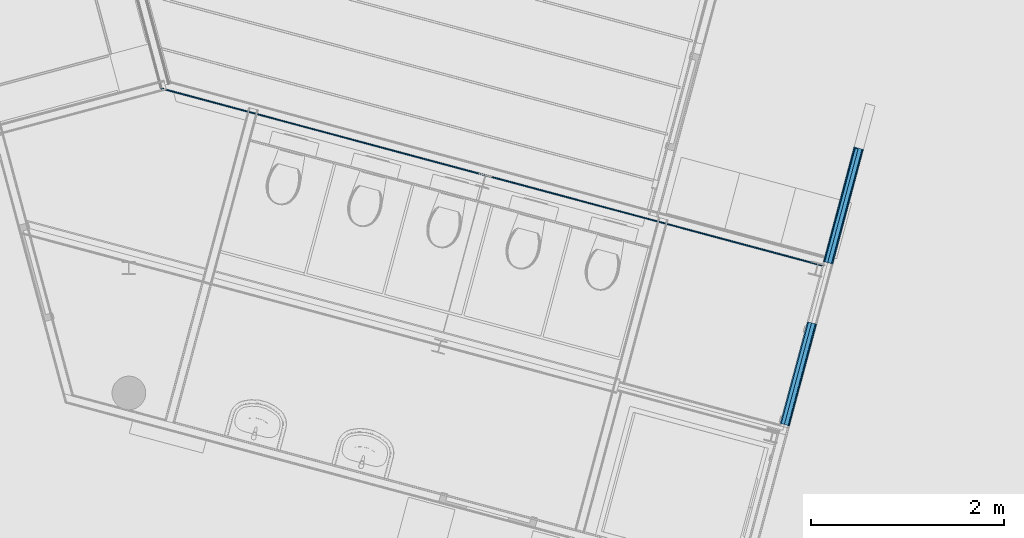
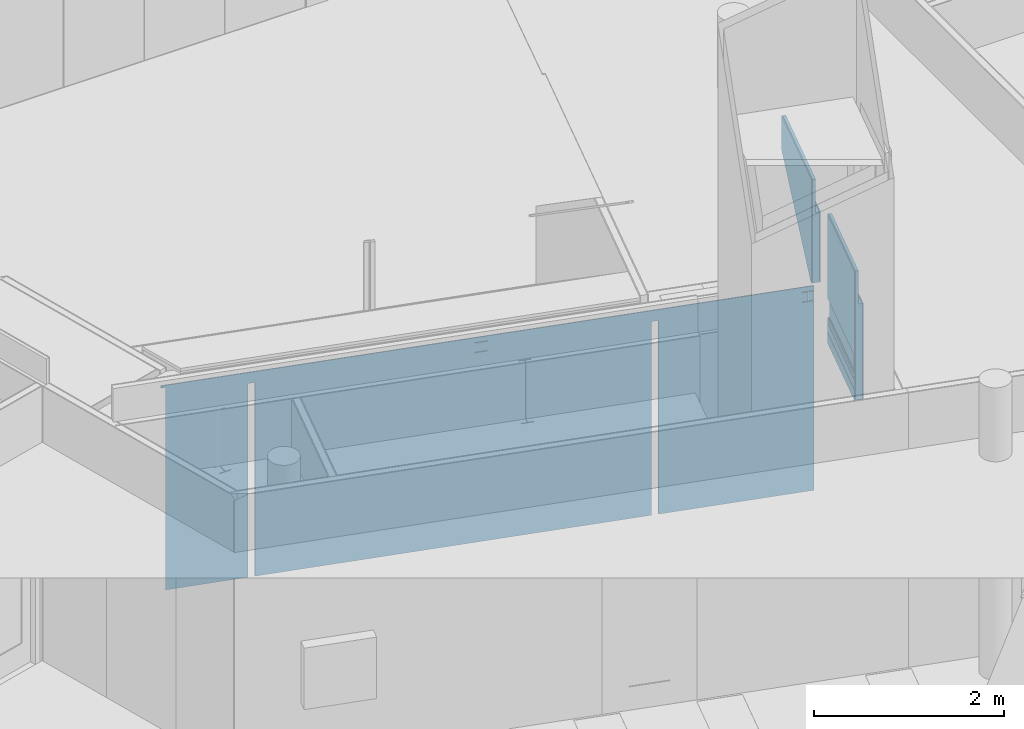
# One storey, part 56 of 167: 7 building element parts, 1 opening, 3 elements without a shape of their own.
"""IFC2X3 building model written with IfcOpenShell, lengths in millimetres."""

import ifcopenshell
import ifcopenshell.guid

model = None  # the IFC model being written
_history = None  # IfcOwnerHistory: only IFC2X3 demands one
_inside = {}  # id of a spatial element -> (the spatial element, [elements in it])
_under = {}  # id of a project, library or spatial element -> (it, [spatial elements below it])
_declared = {}  # id of a project -> (the project, [libraries it declares])
_typed = {}  # id of a type object -> (the type object, [elements of that type])
_made_of = {}  # id of a material, layer set ... -> (it, [elements and type objects made of it])


def new_model(schema):
    """Start an empty IFC model of exactly this schema.

    Asked for "IFC4X3", IfcOpenShell would pick the latest addendum, in which some entities
    have other attributes; the version numbers below select the first issue.
    IFC2X3 requires an IfcOwnerHistory on every rooted entity: one is made here for all.
    """
    global model, _history
    if schema == "IFC4X3":
        model = ifcopenshell.file(schema_version=(4, 3, 0, 0))
    else:
        model = ifcopenshell.file(schema=schema)
    _inside.clear()
    _under.clear()
    _declared.clear()
    _typed.clear()
    _made_of.clear()
    _history = None
    if model.schema == "IFC2X3":
        org = make("IfcOrganization", Name="unknown")
        user = make(
            "IfcPersonAndOrganization",
            ThePerson=make("IfcPerson", FamilyName="unknown"),
            TheOrganization=org,
        )
        app = make(
            "IfcApplication",
            ApplicationDeveloper=org,
            Version="unknown",
            ApplicationFullName="unknown",
            ApplicationIdentifier="unknown",
        )
        _history = make(
            "IfcOwnerHistory",
            OwningUser=user,
            OwningApplication=app,
            ChangeAction="ADDED",
            CreationDate=0,
        )
    return model


def make(cls, **values):
    """One entity of the class cls with the attributes given. An attribute that is None is left unset."""
    return model.create_entity(
        cls, **{name: value for name, value in values.items() if value is not None}
    )


def entity(cls, *values):
    """Any entity or typed value of the class cls, its attributes in the order of the schema. None: left unset."""
    e = model.create_entity(cls)
    for i, value in enumerate(values):
        if value is not None:
            e[i] = value
    return e


def rooted(cls, **values):
    """An entity with a GlobalId (a new one), such as an element, a storey or a relation."""
    return make(cls, GlobalId=ifcopenshell.guid.new(), OwnerHistory=_history, **values)


def si_unit(unit_type, name, prefix=None):
    """IfcSIUnit, for example si_unit("LENGTHUNIT", "METRE", prefix="MILLI")."""
    return make("IfcSIUnit", UnitType=unit_type, Prefix=prefix, Name=name)


def converted_unit(unit_type, name, factor, base, dimensions=None, offset=None):
    """IfcConversionBasedUnit, such as the inch: factor (a typed value) times the base unit."""
    return make(
        "IfcConversionBasedUnit"
        if offset is None
        else "IfcConversionBasedUnitWithOffset",
        ConversionOffset=offset,
        Dimensions=None
        if dimensions is None
        else entity("IfcDimensionalExponents", *dimensions),
        UnitType=unit_type,
        Name=name,
        ConversionFactor=make(
            "IfcMeasureWithUnit", ValueComponent=factor, UnitComponent=base
        ),
    )


def derived_unit(unit_type, elements):
    """IfcDerivedUnit: a product of units, each with its exponent."""
    return make(
        "IfcDerivedUnit",
        Elements=[
            make("IfcDerivedUnitElement", Unit=unit, Exponent=power)
            for unit, power in elements
        ],
        UnitType=unit_type,
    )


def money_unit(currency):
    """IfcMonetaryUnit."""
    return make("IfcMonetaryUnit", Currency=currency)


def assignment(units):
    """IfcUnitAssignment: the units of a project."""
    return None if units is None else make("IfcUnitAssignment", Units=units)


def point(xyz):
    """IfcCartesianPoint."""
    return None if xyz is None else make("IfcCartesianPoint", Coordinates=xyz)


def direction(xyz):
    """IfcDirection."""
    return None if xyz is None else make("IfcDirection", DirectionRatios=xyz)


def frame(location, z_axis=None, x_axis=None):
    """IfcAxis2Placement3D, a coordinate frame: its origin and axes. An axis left out is left unset."""
    return make(
        "IfcAxis2Placement3D",
        Location=point(location),
        Axis=direction(z_axis),
        RefDirection=direction(x_axis),
    )


def origin_with_axes():
    """The frame at (0, 0, 0) with the z axis (0, 0, 1) and the x axis (1, 0, 0) written out."""
    return frame((0.0, 0.0, 0.0), z_axis=(0.0, 0.0, 1.0), x_axis=(1.0, 0.0, 0.0))


def place(relative_to, where):
    """IfcLocalPlacement: puts the frame where relative to a parent placement (None: the world)."""
    return make(
        "IfcLocalPlacement", PlacementRelTo=relative_to, RelativePlacement=where
    )


def context(
    kind, dimensions, precision=None, world=None, true_north=None, identifier=None
):
    """IfcGeometricRepresentationContext, for example the 3D "Model" context."""
    return make(
        "IfcGeometricRepresentationContext",
        ContextIdentifier=identifier,
        ContextType=kind,
        CoordinateSpaceDimension=dimensions,
        Precision=precision,
        WorldCoordinateSystem=world,
        TrueNorth=true_north,
    )


def subcontext(parent, identifier, kind, view, scale=None):
    """IfcGeometricRepresentationSubContext, for example "Body" below "Model"."""
    return make(
        "IfcGeometricRepresentationSubContext",
        ContextIdentifier=identifier,
        ContextType=kind,
        ParentContext=parent,
        TargetScale=scale,
        TargetView=view,
    )


def project(units=None, contexts=None):
    """IfcProject with its units and contexts."""
    return rooted(
        "IfcProject",
        Name="project",
        RepresentationContexts=contexts,
        UnitsInContext=assignment(units),
    )


def spatial(cls, under=None, at=None, **own):
    """A site, building, storey or space (cls), placed at a placement, below another one or the project."""
    s = rooted(cls, ObjectPlacement=at, **own)
    if under is not None:
        _under.setdefault(under.id(), (under, []))[1].append(s)
    return s


def faces_of(points, faces, orient=None, outer=None):
    """IfcFace entities. A face is a list of loops; a loop is a list of indices into points, from 0.

    orient and outer hold one flag for each loop. By default every Orientation is true, the
    first loop of a face is its IfcFaceOuterBound and the others are IfcFaceBound.
    """
    made = []
    for i, loops in enumerate(faces):
        bounds = []
        for j, loop in enumerate(loops):
            is_outer = j == 0 if outer is None else outer[i][j]
            bounds.append(
                make(
                    "IfcFaceOuterBound" if is_outer else "IfcFaceBound",
                    Bound=make("IfcPolyLoop", Polygon=[points[k] for k in loop]),
                    Orientation=True if orient is None else orient[i][j],
                )
            )
        made.append(make("IfcFace", Bounds=bounds))
    return made


def faceted_brep(points, faces, orient=None, outer=None, voids=None):
    """IfcFacetedBrep: a solid bounded by flat faces; with voids (closed shells), ...WithVoids."""
    shared = [point(p) for p in points]
    hull = make("IfcClosedShell", CfsFaces=faces_of(shared, faces, orient, outer))
    if voids is None:
        return make("IfcFacetedBrep", Outer=hull)
    return make(
        "IfcFacetedBrepWithVoids",
        Outer=hull,
        Voids=[
            make(cls, CfsFaces=faces_of(shared, fs, o, b)) for cls, fs, o, b in voids
        ],
    )


def shape(context_of_items, identifier, shape_type, items):
    """IfcShapeRepresentation: the items that make up one representation, for example the "Body"."""
    return make(
        "IfcShapeRepresentation",
        ContextOfItems=context_of_items,
        RepresentationIdentifier=identifier,
        RepresentationType=shape_type,
        Items=items,
    )


def material(Name=None, Category=None):
    """IfcMaterial."""
    return make("IfcMaterial", Name=Name, Category=Category)


def made_of(thing, what):
    """Note that an element or type object is made of a material, layer set ...; save() writes the relation."""
    if what is not None:
        _made_of.setdefault(what.id(), (what, []))[1].append(thing)
    return thing


def type_object(cls, material=None, **own):
    """A type object (cls), such as IfcWallType, which elements share."""
    return made_of(rooted(cls, **own), material)


def element(
    cls,
    number,
    at=None,
    inside=None,
    cuts=None,
    type_object=None,
    material=None,
    context=None,
    identifier="Body",
    shape_type=None,
    held_by="IfcProductDefinitionShape",
    body=None,
    shapes=None,
    **own,
):
    """One element of the class cls, such as IfcWall. Its Tag is "e" and its number.

    at: its placement. inside: the storey or other place that contains it. cuts: it is an
    opening in that element (IfcRelVoidsElement). A single representation is given by context,
    identifier, shape_type and body (its items); several are given by shapes. held_by: the class
    of the entity that holds the representations. save() writes the other relations.
    """
    e = rooted(cls, Tag="e%d" % number, ObjectPlacement=at, **own)
    if body is not None:
        shapes = [shape(context, identifier, shape_type, body)]
    if shapes is not None:
        e.Representation = make(held_by, Representations=shapes)
    if inside is not None:
        _inside.setdefault(inside.id(), (inside, []))[1].append(e)
    if cuts is not None:
        rooted(
            "IfcRelVoidsElement", RelatingBuildingElement=cuts, RelatedOpeningElement=e
        )
    if type_object is not None:
        _typed.setdefault(type_object.id(), (type_object, []))[1].append(e)
    return made_of(e, material)


def aggregate(whole, parts):
    """IfcRelAggregates: a whole, such as a stair, and the parts it consists of."""
    return rooted("IfcRelAggregates", RelatingObject=whole, RelatedObjects=parts)


def save(model, path):
    """Write the relations noted so far, then the file.

    IfcRelAggregates (storeys below a building ...), IfcRelContainedInSpatialStructure (elements
    in a storey), IfcRelDefinesByType, IfcRelAssociatesMaterial and IfcRelDeclares: one each for
    every whole, place, type object, material and project.
    """
    for whole, parts in _under.values():
        aggregate(whole, parts)
    for where, things in _inside.values():
        rooted(
            "IfcRelContainedInSpatialStructure",
            RelatedElements=things,
            RelatingStructure=where,
        )
    for kind, things in _typed.values():
        rooted("IfcRelDefinesByType", RelatedObjects=things, RelatingType=kind)
    for what, things in _made_of.values():
        rooted("IfcRelAssociatesMaterial", RelatedObjects=things, RelatingMaterial=what)
    for by, libraries in _declared.values():
        rooted("IfcRelDeclares", RelatingContext=by, RelatedDefinitions=libraries)
    model.write(path)


model = new_model("IFC2X3")

# Units and contexts
model_context = context("Model", 3, precision=0.01, world=origin_with_axes(), true_north=direction((0.0, 1.0)))
plan_context = context("Plan", 3, precision=0.01, world=origin_with_axes(), true_north=direction((0.0, 1.0)))
body_context = subcontext(model_context, "Body", "Model", "MODEL_VIEW")
ifc_project = project(units=[si_unit("LENGTHUNIT", "METRE", prefix="MILLI"), si_unit("AREAUNIT", "SQUARE_METRE"), si_unit("VOLUMEUNIT", "CUBIC_METRE"), converted_unit("PLANEANGLEUNIT", "DEGREE", entity("IfcPlaneAngleMeasure", 0.0174532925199), si_unit("PLANEANGLEUNIT", "RADIAN"), dimensions=[0, 0, 0, 0, 0, 0, 0]), si_unit("SOLIDANGLEUNIT", "STERADIAN"), money_unit("EUR"), converted_unit("TIMEUNIT", "Year", entity("IfcTimeMeasure", 31556926.0), si_unit("TIMEUNIT", "SECOND"), dimensions=[0, 0, 1, 0, 0, 0, 0]), si_unit("MASSUNIT", "GRAM", prefix="KILO"), si_unit("THERMODYNAMICTEMPERATUREUNIT", "DEGREE_CELSIUS"), si_unit("LUMINOUSINTENSITYUNIT", "LUMEN"), si_unit("ENERGYUNIT", "JOULE", prefix="MEGA"), derived_unit("THERMALCONDUCTANCEUNIT", [(si_unit("POWERUNIT", "WATT"), 1), (si_unit("LENGTHUNIT", "METRE"), -1), (si_unit("THERMODYNAMICTEMPERATUREUNIT", "KELVIN"), -1)]), derived_unit("SPECIFICHEATCAPACITYUNIT", [(si_unit("ENERGYUNIT", "JOULE"), 1), (si_unit("MASSUNIT", "GRAM", prefix="KILO"), -1), (si_unit("THERMODYNAMICTEMPERATUREUNIT", "KELVIN"), -1)]), derived_unit("MASSDENSITYUNIT", [(si_unit("MASSUNIT", "GRAM", prefix="KILO"), 1), (si_unit("VOLUMEUNIT", "CUBIC_METRE"), -1)])], contexts=[model_context, plan_context])

# Site, building, storey
site_placement = place(None, origin_with_axes())
site = spatial("IfcSite", under=ifc_project, at=site_placement, Name="Site", CompositionType="ELEMENT")
building_placement = place(site_placement, origin_with_axes())
building = spatial("IfcBuilding", under=site, at=building_placement, Name="Naam gebouw", CompositionType="ELEMENT")
storey_placement = place(building_placement, origin_with_axes())
storey = spatial("IfcBuildingStorey", under=building, at=storey_placement, Name="Begane grond", CompositionType="ELEMENT", Elevation=0.0)

# Wall, building element parts
wall_type = type_object("IfcWallType", Name="_TenW_22_Metalstud 100 enkel gipsvezelplaat 100", PredefinedType="NOTDEFINED")
wall_1_placement = place(storey_placement, frame((21483.922166, 14040.2394297, 2300.0), z_axis=(0.0, 0.0, 1.0), x_axis=(-0.258819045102, -0.965925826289, 0.0)))
wall_1 = element("IfcWall", 1, at=wall_1_placement, inside=storey, type_object=wall_type, Name="22_Wand_Wand-x")
ifc_material_1 = material(Name="Gipsplaat watervast")
building_element_part_1_placement = place(wall_1_placement, origin_with_axes())
building_element_part_1 = element("IfcBuildingElementPart", 2, at=building_element_part_1_placement, material=ifc_material_1, Name="Gipsplaat watervast", context=body_context, shape_type="Brep", body=[
    faceted_brep([(0.0, 37.5, 0.0), (0.0, 37.5, 1230.0), (0.0, 50.0, 1230.0), (0.0, 50.0, 0.0), (1090.81519137, 37.5, 0.0), (1090.81519137, 37.5, 1230.0), (1090.81519137, 50.0, 1230.0), (1090.81519137, 50.0, 0.0)], [[[0, 1, 2, 3]], [[4, 5, 1, 0]], [[5, 6, 2, 1]], [[3, 2, 6, 7]], [[0, 3, 7, 4]], [[7, 6, 5, 4]]]),
])
ifc_material_2 = material(Name="Isolatie - Steenwol zacht")
building_element_part_2_placement = place(wall_1_placement, origin_with_axes())
building_element_part_2 = element("IfcBuildingElementPart", 3, at=building_element_part_2_placement, material=ifc_material_2, Name="Isolatie - Steenwol zacht", context=body_context, shape_type="Brep", body=[
    faceted_brep([(0.0, -37.5, 261.5), (0.0, -28.3940989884, 261.5), (0.0, -28.3940989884, 270.0), (0.0, -37.5, 270.0), (0.0, -37.5, 330.0), (0.0, -28.394102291, 330.0), (0.0, -28.394102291, 580.0), (0.0, -37.5, 580.0), (0.0, -37.5, 1660.0), (0.0, -4.04939479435, 1660.0), (0.0, -4.04939479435, 1230.0), (0.0, 37.5, 1230.0), (0.0, 37.5, 0.0), (0.0, -37.5, 0.0), (0.0, -37.5, 137.0), (0.0, -28.3940989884, 137.0), (0.0, -28.3940989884, 145.5), (0.0, -37.5, 145.5), (1090.81519137, -37.5, 261.5), (1090.81519137, -28.3940989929, 261.5), (1090.81519137, -28.3940989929, 270.0), (1090.81519137, -37.5, 270.0), (1090.81519137, -37.5, 1660.0), (1078.34085931, -37.5, 580.0), (1078.34085931, -37.5, 330.0), (1078.31518613, -28.3941080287, 330.0), (1078.31518613, -28.3941080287, 580.0), (1090.81519137, -3.74263355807, 1660.0), (1090.81519137, -3.74263355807, 1230.0), (1090.81519137, 37.5, 1230.0), (1090.81519137, 37.5, 0.0), (1090.81519137, -37.5, 0.0), (1090.81519137, -37.5, 137.0), (1090.81519137, -28.3940989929, 137.0), (1090.81519137, -28.3940989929, 145.5), (1090.81519137, -37.5, 145.5)], [[[0, 1, 2, 3, 4, 5, 6, 7, 8, 9, 10, 11, 12, 13, 14, 15, 16, 17]], [[1, 0, 18, 19]], [[2, 1, 19, 20]], [[3, 2, 20, 21]], [[3, 21, 22, 8, 7, 23, 24, 4]], [[25, 5, 4, 24]], [[26, 6, 5, 25]], [[23, 7, 6, 26]], [[22, 27, 9, 8]], [[27, 28, 10, 9]], [[28, 29, 11, 10]], [[12, 11, 29, 30]], [[13, 12, 30, 31]], [[32, 14, 13, 31]], [[15, 14, 32, 33]], [[16, 15, 33, 34]], [[17, 16, 34, 35]], [[18, 0, 17, 35]], [[19, 18, 35, 34, 33, 32, 31, 30, 29, 28, 27, 22, 21, 20]], [[25, 24, 23, 26]]]),
])
building_element_part_3_placement = place(wall_1_placement, origin_with_axes())
building_element_part_3 = element("IfcBuildingElementPart", 4, at=building_element_part_3_placement, material=ifc_material_1, Name="Gipsplaat watervast", context=body_context, shape_type="Brep", body=[
    faceted_brep([(0.0, -50.0, 137.0), (0.0, -37.5, 137.0), (0.0, -37.5, 0.0), (0.0, -50.0, 0.0), (1090.81519137, -37.5, 137.0), (1090.81519137, -50.0, 137.0), (1090.81519137, -37.5, 0.0), (1090.81519137, -50.0, 0.0)], [[[0, 1, 2, 3]], [[4, 1, 0, 5]], [[1, 4, 6, 2]], [[3, 2, 6, 7]], [[5, 0, 3, 7]], [[4, 5, 7, 6]]]),
    faceted_brep([(0.0, -37.5, 261.5), (1090.81519137, -37.5, 261.5), (1090.81519137, -37.5, 145.5), (0.0, -37.5, 145.5), (0.0, -50.0, 261.5), (1090.81519137, -50.0, 261.5), (1090.81519137, -50.0, 145.5), (0.0, -50.0, 145.5)], [[[0, 1, 2, 3]], [[1, 0, 4, 5]], [[1, 5, 6, 2]], [[7, 3, 2, 6]], [[4, 0, 3, 7]], [[5, 4, 7, 6]]]),
    faceted_brep([(1090.81519137, -37.5, 270.0), (0.0, -37.5, 270.0), (0.0, -37.5, 330.0), (1078.34085931, -37.5, 330.0), (1078.34085931, -37.5, 580.0), (0.0, -37.5, 580.0), (0.0, -37.5, 1660.0), (1090.81519137, -37.5, 1660.0), (0.0, -50.0, 270.0), (1090.81519137, -50.0, 270.0), (0.0, -50.0, 330.0), (1078.37610184, -50.0, 330.0), (1078.37610184, -50.0, 580.0), (0.0, -50.0, 580.0), (0.0, -50.0, 1660.0), (1090.81519137, -50.0, 1660.0)], [[[0, 1, 2, 3, 4, 5, 6, 7]], [[8, 1, 0, 9]], [[1, 8, 10, 2]], [[11, 3, 2, 10]], [[12, 4, 3, 11]], [[12, 13, 5, 4]], [[6, 5, 13, 14]], [[6, 14, 15, 7]], [[9, 0, 7, 15]], [[8, 9, 15, 14, 13, 12, 11, 10]]]),
])
aggregate(wall_1, [building_element_part_1, building_element_part_2, building_element_part_3])

# Wall, opening, building element parts
wall_2_placement = place(storey_placement, frame((22090.6213427, 16304.471582, 2490.0), z_axis=(0.0, 0.0, 1.0), x_axis=(-0.258819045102, -0.965925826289, 0.0)))
wall_2 = element("IfcWall", 5, at=wall_2_placement, inside=storey, type_object=wall_type, Name="22_Wand_Wand-x")
opening_placement = place(wall_2_placement, frame((1025.05830562, 0.0, -160.0), z_axis=(0.0, 0.0, 1.0), x_axis=(1.0, 0.0, 0.0)))
element("IfcOpeningElement", 6, at=opening_placement, cuts=wall_2, Name="31_Raam_Merk-x", context=body_context, shape_type="Brep", body=[
    faceted_brep([(1025.05830562, 300.0, 0.0), (-1025.05830562, 300.0, 1554.92097088), (-1025.05830562, -300.0, 1554.92097088), (1025.05830562, -300.0, 0.0), (-1025.05830562, 300.0, 0.0), (-1025.05830562, -300.0, 0.0)], [[[0, 1, 2, 3]], [[0, 4, 1]], [[1, 4, 5, 2]], [[3, 2, 5]], [[4, 0, 3, 5]]]),
])
building_element_part_4_placement = place(wall_2_placement, origin_with_axes())
building_element_part_4 = element("IfcBuildingElementPart", 7, at=building_element_part_4_placement, material=ifc_material_1, Name="Gipsplaat watervast", context=body_context, shape_type="Brep", body=[
    faceted_brep([(1654.5756192, 49.9999917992, 140.0), (467.952643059, 49.9999976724, 1040.0), (1697.40280557, 49.9999915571, 1040.0), (1697.40280557, 49.9999919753, 140.0), (467.952643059, 37.5000006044, 1040.0), (1654.5756192, 37.5000069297, 140.0), (1697.40280557, 37.5000021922, 1040.0), (1697.40280557, 37.5000067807, 140.0)], [[[0, 1, 2, 3]], [[4, 1, 0, 5]], [[1, 4, 6, 2]], [[6, 7, 3, 2]], [[5, 0, 3, 7]], [[4, 5, 7, 6]]]),
])
building_element_part_5_placement = place(wall_2_placement, origin_with_axes())
building_element_part_5 = element("IfcBuildingElementPart", 8, at=building_element_part_5_placement, material=ifc_material_2, Name="Isolatie - Steenwol zacht", context=body_context, shape_type="Brep", body=[
    faceted_brep([(1654.5756192, 37.5000069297, 140.0), (467.952643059, 37.5000006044, 1040.0), (1697.40280557, 37.5000021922, 1040.0), (1697.40280557, 37.5000067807, 140.0), (467.952643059, -37.4999962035, 1040.0), (1654.5756192, -37.4999963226, 140.0), (477.702640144, -37.4999961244, 1040.0), (477.405929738, -4.57435182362, 1040.0), (1697.40280557, -4.23126185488, 1040.0), (1697.40280557, -37.5, 1470.0), (1697.40280557, -37.4999964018, 140.0), (1697.40280557, -4.23126185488, 1470.0), (477.702640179, -37.5, 1470.0), (477.405929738, -4.57435182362, 1470.0)], [[[0, 1, 2, 3]], [[4, 1, 0, 5]], [[1, 4, 6, 7, 8, 2]], [[9, 10, 3, 2, 8, 11]], [[5, 0, 3, 10]], [[4, 5, 10, 9, 12, 6]], [[7, 6, 12, 13]], [[8, 7, 13, 11]], [[13, 12, 9, 11]]]),
])
building_element_part_6_placement = place(wall_2_placement, origin_with_axes())
building_element_part_6 = element("IfcBuildingElementPart", 9, at=building_element_part_6_placement, material=ifc_material_1, Name="Gipsplaat watervast", context=body_context, shape_type="Brep", body=[
    faceted_brep([(1659.90280557, -37.5, 135.959569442), (467.952643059, -37.5, 1040.0), (477.702640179, -37.5, 1040.0), (477.702640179, -37.5, 1470.0), (1697.40280557, -37.5, 1470.0), (1697.40280557, -37.5, 140.0), (1659.90280557, -37.5, 140.0), (467.952643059, -50.0, 1040.0), (1659.90280557, -50.0, 135.959569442), (477.815284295, -50.0, 1040.0), (477.815284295, -50.0, 1470.0), (1697.40280557, -50.0, 1470.0), (1697.40280557, -50.0, 140.0), (1659.90280557, -50.0, 140.0)], [[[0, 1, 2, 3, 4, 5, 6]], [[7, 1, 0, 8]], [[1, 7, 9, 2]], [[2, 9, 10, 3]], [[3, 10, 11, 4]], [[11, 12, 5, 4]], [[13, 6, 5, 12]], [[8, 0, 6, 13]], [[7, 8, 13, 12, 11, 10, 9]]]),
])
aggregate(wall_2, [building_element_part_4, building_element_part_5, building_element_part_6])

# Wall, building element part
wall_3_placement = place(storey_placement, frame((14773.2838632, 16507.8655572, 0.0), z_axis=(0.0, 0.0, 1.0), x_axis=(0.965925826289, -0.258819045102, 0.0)))
wall_3 = element("IfcWall", 10, at=wall_3_placement, inside=storey, type_object=wall_type, Name="22_Wand_Wand-x")
building_element_part_7_placement = place(wall_3_placement, origin_with_axes())
building_element_part_7 = element("IfcBuildingElementPart", 11, at=building_element_part_7_placement, material=ifc_material_1, Name="Gipsplaat watervast", context=body_context, shape_type="Brep", body=[
    faceted_brep([(7025.00338651, -37.5, 2445.5), (7025.00338651, -37.5, 2561.5), (7083.14748893, -37.5, 2561.5), (7083.14748878, -37.5, 2445.5), (7025.00338651, -50.0, 2445.5), (7025.00338651, -50.0, 2561.5), (7083.14748891, -50.0, 2561.5), (7083.14748876, -50.0, 2445.5)], [[[0, 1, 2, 3]], [[1, 0, 4, 5]], [[6, 2, 1, 5]], [[7, 3, 2, 6]], [[0, 3, 7, 4]], [[4, 7, 6, 5]]]),
    faceted_brep([(6952.25338651, -50.0, 2570.0), (7083.14748892, -50.0, 2570.0), (7083.147489, -50.0, 2630.0), (-28.8675134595, -50.0, 2630.0), (-28.8675134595, -50.0, 2600.0), (14.3372692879, -50.0, 2600.0), (14.3372692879, -50.0, 0.0), (913.829413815, -50.0, 0.0), (913.829413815, -50.0, 2490.0), (988.829413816, -50.0, 2490.0), (988.829413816, -50.0, 0.0), (5313.82941382, -50.0, 0.0), (5313.82941382, -50.0, 2490.0), (5388.82941382, -50.0, 2490.0), (5388.82941382, -50.0, 0.0), (7083.1474855, -50.0, 0.0), (7083.14748875, -50.0, 2437.0), (6952.25338651, -50.0, 2437.0), (6952.25338651, -50.0, 2445.5), (7019.50338651, -50.0, 2445.5), (7019.50338651, -50.0, 2561.5), (6952.25338651, -50.0, 2561.5), (3383.00724831, -50.0, 2561.5), (3383.00724831, -50.0, 2570.0), (3523.00724831, -50.0, 2570.0), (3523.00724831, -50.0, 2561.5), (3455.75724831, -50.0, 2561.5), (3455.75724831, -50.0, 2445.5), (3523.00724831, -50.0, 2445.5), (3523.00724831, -50.0, 2437.0), (3383.00724831, -50.0, 2437.0), (3383.00724831, -50.0, 2445.5), (3450.25724831, -50.0, 2445.5), (3450.25724831, -50.0, 2561.5), (6952.25338651, -37.5, 2570.0), (7083.14748894, -37.5, 2570.0), (7083.14748903, -37.5, 2630.0), (-36.0843918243, -37.5, 2630.0), (-36.0843918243, -37.5, 2600.0), (23.6756434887, -37.5, 2600.0), (26.7537087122, -42.831365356, 2600.0), (26.7537087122, -42.831365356, 0.0), (23.6756434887, -37.5, 0.0), (913.829413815, -37.5, 0.0), (913.829413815, -37.5, 2490.0), (988.829413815, -37.5, 2490.0), (988.829413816, -37.5, 0.0), (5313.82941382, -37.5, 0.0), (5313.82941382, -37.5, 2490.0), (5388.82941382, -37.5, 2490.0), (5388.82941382, -37.5, 0.0), (7083.1474855, -37.5, 0.0), (7083.14748877, -37.5, 2437.0), (6952.25338651, -37.5, 2437.0), (6952.25338651, -37.5, 2445.5), (7019.50338651, -37.5, 2445.5), (7019.50338651, -37.5, 2561.5), (6952.25338651, -37.5, 2561.5), (3383.00724831, -39.112858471, 2561.5), (3383.00724831, -39.112858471, 2570.0), (3523.00724831, -39.1128584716, 2570.0), (3523.00724831, -39.1128584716, 2561.5), (3455.75724831, -39.1128584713, 2561.5), (3455.75724831, -39.1128584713, 2445.5), (3523.00724831, -39.1128584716, 2445.5), (3523.00724831, -39.1128584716, 2437.0), (3383.00724831, -39.112858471, 2437.0), (3383.00724831, -39.112858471, 2445.5), (3450.25724831, -39.1128584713, 2445.5), (3450.25724831, -39.1128584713, 2561.5)], [[[0, 1, 2, 3, 4, 5, 6, 7, 8, 9, 10, 11, 12, 13, 14, 15, 16, 17, 18, 19, 20, 21], [22, 23, 24, 25, 26, 27, 28, 29, 30, 31, 32, 33]], [[34, 35, 1, 0]], [[1, 35, 36, 2]], [[3, 2, 36, 37]], [[37, 38, 4, 3]], [[38, 39, 40, 5, 4]], [[40, 41, 6, 5]], [[6, 41, 42, 43, 7]], [[7, 43, 44, 8]], [[8, 44, 45, 9]], [[9, 45, 46, 10]], [[11, 10, 46, 47]], [[11, 47, 48, 12]], [[12, 48, 49, 13]], [[13, 49, 50, 14]], [[50, 51, 15, 14]], [[52, 16, 15, 51]], [[16, 52, 53, 17]], [[53, 54, 18, 17]], [[54, 55, 19, 18]], [[55, 56, 20, 19]], [[56, 57, 21, 20]], [[57, 34, 0, 21]], [[23, 22, 58, 59]], [[24, 23, 59, 60]], [[25, 24, 60, 61]], [[26, 25, 61, 62]], [[27, 26, 62, 63]], [[28, 27, 63, 64]], [[29, 28, 64, 65]], [[30, 29, 65, 66]], [[31, 30, 66, 67]], [[32, 31, 67, 68]], [[33, 32, 68, 69]], [[22, 33, 69, 58]], [[53, 52, 51, 50, 49, 48, 47, 46, 45, 44, 43, 42, 39, 38, 37, 36, 35, 34, 57, 56, 55, 54]], [[39, 42, 41, 40]], [[60, 59, 58, 69, 68, 67, 66, 65, 64, 63, 62, 61]]]),
])
aggregate(wall_3, [building_element_part_7])

save(model, "model.ifc")
